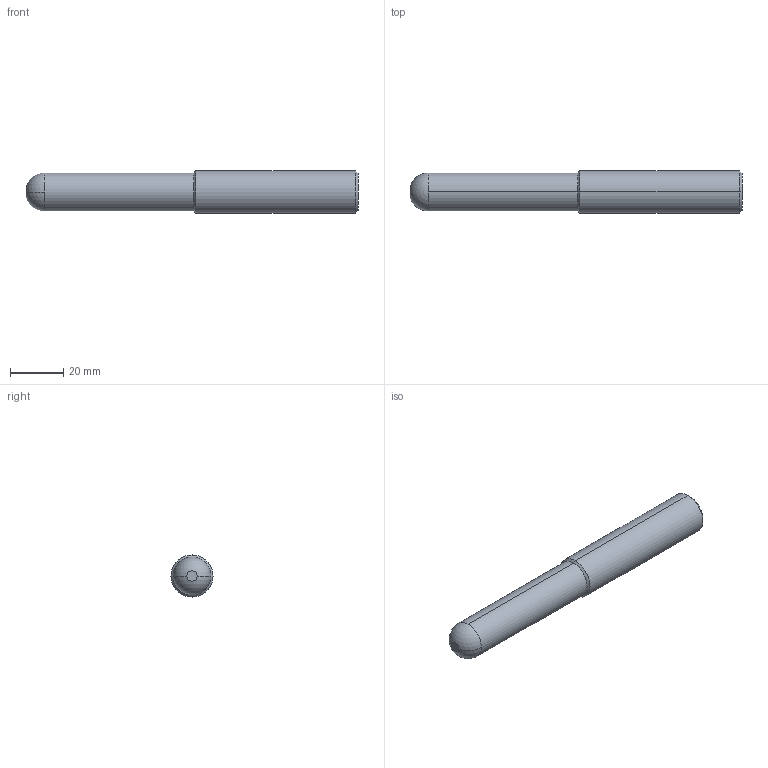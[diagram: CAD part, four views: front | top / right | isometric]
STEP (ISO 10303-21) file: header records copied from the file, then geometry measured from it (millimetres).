
FILE_DESCRIPTION (( 'STEP AP214' ), '1' );
FILE_NAME ('01-0227.STEP', '2021-02-10T00:22:36', ( 'USER' ), ( '' ), 'SwSTEP 2.0', 'SolidWorks 2018', '' );
FILE_SCHEMA (( 'AUTOMOTIVE_DESIGN' ));
Length unit declared in the file: millimetre
Products named in the file (2): 01-0227
Bounding box: 125 x 15.87 x 15.87 mm (x, y, z)
Volume: 22001.1 mm3; surface area: 6114.2 mm2
Topology: 1 solids, 1 shells, 12 faces, 26 edges, 14 vertices
Faces by surface type: cylinder 4, cone 4, sphere 2, plane 2
Entity records: 365 total; most frequent: DIRECTION 68, CARTESIAN_POINT 52, ORIENTED_EDGE 48, AXIS2_PLACEMENT_3D 30, EDGE_CURVE 24, CIRCLE 16, VERTEX_POINT 14, FACE_OUTER_BOUND 12
